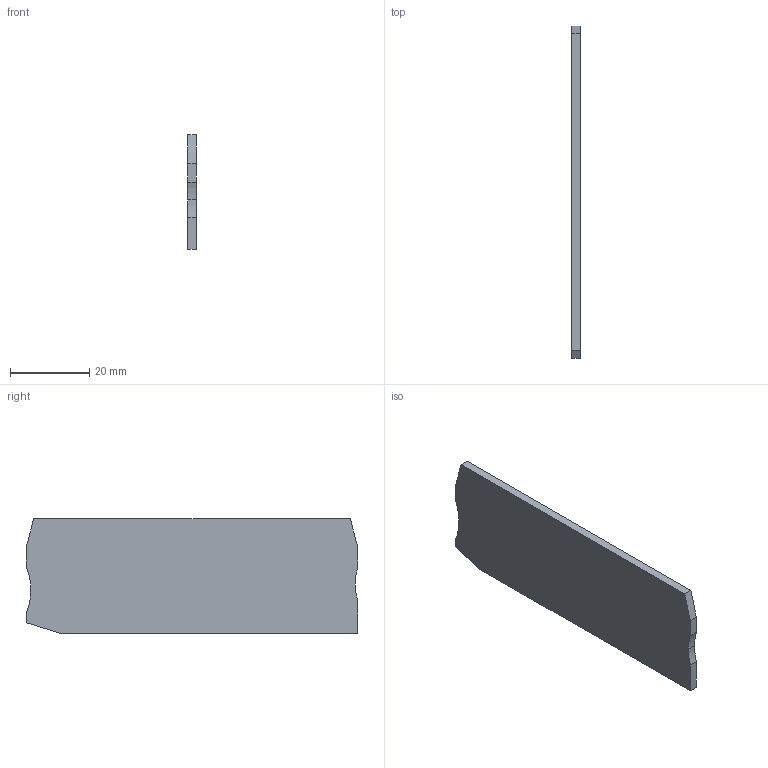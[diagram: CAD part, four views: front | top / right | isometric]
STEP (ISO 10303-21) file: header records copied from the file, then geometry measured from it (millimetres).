
FILE_DESCRIPTION(('TFLEX Exchange Step'),'2;1');
FILE_NAME('10200025_К-КНЗ_2,5-4-ВСТ.stp', '2024-03-13T08:57:19+03:00',('apanin'),('Unknown organisation'),'TFLEX Exchange 2023.2','T-FLEX CAD','Unknown authorisation');
FILE_SCHEMA( ('AUTOMOTIVE_DESIGN { 1 0 10303 214 1 1 1 1 }') );
Length unit declared in the file: millimetre
Products named in the file (1): Тело_1 - D_ST_25-QUATTRO-MT-SELECT:1
Bounding box: 2.2 x 84 x 29.05 mm (x, y, z)
Volume: 5273.4 mm3; surface area: 5296.8 mm2
Topology: 1 solids, 1 shells, 234 faces, 675 edges, 450 vertices
Faces by surface type: cylinder 164, plane 70
Entity records: 7871 total; most frequent: DIRECTION 1473, CARTESIAN_POINT 1360, ORIENTED_EDGE 1350, EDGE_CURVE 675, AXIS2_PLACEMENT_3D 563, VERTEX_POINT 450, VECTOR 347, LINE 347
